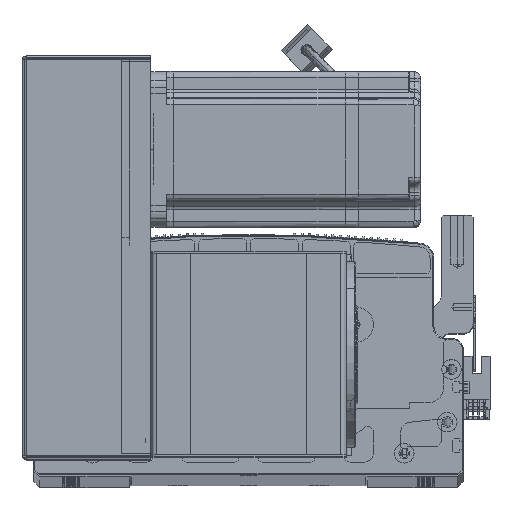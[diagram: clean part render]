
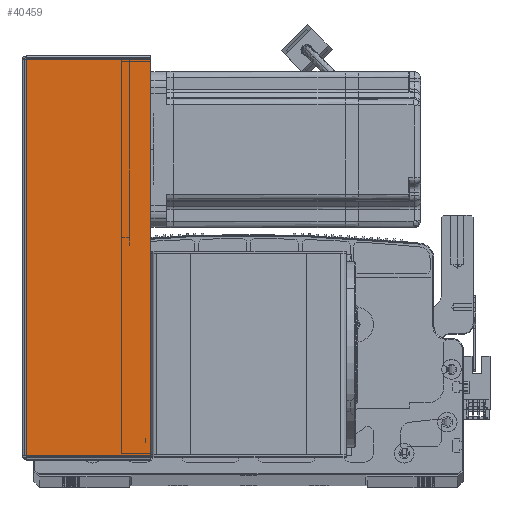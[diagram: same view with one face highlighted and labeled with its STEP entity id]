
A CAD part, top view. The second image highlights one B-rep face of the part: STEP entity #40459.
In plain terms, the highlighted planar face has unit normal (0, 0, 1) as drawn and (0, 1, 0) by its records, which use the part's own axes.
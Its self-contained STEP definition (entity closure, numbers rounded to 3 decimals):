
#1509 = EDGE_CURVE ( 'NONE', #90996, #20098, #86736, .T. ) ;
#4069 = PLANE ( 'NONE',  #18298 ) ;
#9769 = CARTESIAN_POINT ( 'NONE',  ( 0.737, 107.5, -203.293 ) ) ;
#10387 = EDGE_LOOP ( 'NONE', ( #39286, #76508, #52318, #17115 ) ) ;
#13193 = VERTEX_POINT ( 'NONE', #28824 ) ;
#13623 = CARTESIAN_POINT ( 'NONE',  ( 0.737, 107.5, 0. ) ) ;
#17115 = ORIENTED_EDGE ( 'NONE', *, *, #36371, .F. ) ;
#17184 = DIRECTION ( 'NONE',  ( 1., 0., 0. ) ) ;
#17831 = CARTESIAN_POINT ( 'NONE',  ( 64.5, 107.5, -204. ) ) ;
#18298 = AXIS2_PLACEMENT_3D ( 'NONE', #95538, #34064, #57920 ) ;
#18505 = CARTESIAN_POINT ( 'NONE',  ( 0., 107.5, -0.707 ) ) ;
#20098 = VERTEX_POINT ( 'NONE', #9769 ) ;
#28824 = CARTESIAN_POINT ( 'NONE',  ( 64.5, 107.5, -203.293 ) ) ;
#34064 = DIRECTION ( 'NONE',  ( 0., -1., 0. ) ) ;
#34342 = DIRECTION ( 'NONE',  ( 0., 0., -1. ) ) ;
#36371 = EDGE_CURVE ( 'NONE', #20098, #13193, #45058, .T. ) ;
#38581 = CARTESIAN_POINT ( 'NONE',  ( 0., 107.5, -203.293 ) ) ;
#39286 = ORIENTED_EDGE ( 'NONE', *, *, #1509, .F. ) ;
#40459 = ADVANCED_FACE ( 'NONE', ( #86378 ), #4069, .F. ) ;
#45058 = LINE ( 'NONE', #38581, #83510 ) ;
#47967 = LINE ( 'NONE', #18505, #85243 ) ;
#51959 = VERTEX_POINT ( 'NONE', #82479 ) ;
#52247 = LINE ( 'NONE', #17831, #76249 ) ;
#52318 = ORIENTED_EDGE ( 'NONE', *, *, #62935, .T. ) ;
#57920 = DIRECTION ( 'NONE',  ( 1., 0., 0. ) ) ;
#62013 = CARTESIAN_POINT ( 'NONE',  ( 0.737, 107.5, -0.707 ) ) ;
#62935 = EDGE_CURVE ( 'NONE', #51959, #13193, #52247, .T. ) ;
#66755 = DIRECTION ( 'NONE',  ( 0., 0., -1. ) ) ;
#76249 = VECTOR ( 'NONE', #34342, 1000. ) ;
#76508 = ORIENTED_EDGE ( 'NONE', *, *, #88690, .T. ) ;
#82479 = CARTESIAN_POINT ( 'NONE',  ( 64.5, 107.5, -0.707 ) ) ;
#83510 = VECTOR ( 'NONE', #92583, 1000. ) ;
#84353 = VECTOR ( 'NONE', #66755, 1000. ) ;
#85243 = VECTOR ( 'NONE', #17184, 1000. ) ;
#86378 = FACE_OUTER_BOUND ( 'NONE', #10387, .T. ) ;
#86736 = LINE ( 'NONE', #13623, #84353 ) ;
#88690 = EDGE_CURVE ( 'NONE', #90996, #51959, #47967, .T. ) ;
#90996 = VERTEX_POINT ( 'NONE', #62013 ) ;
#92583 = DIRECTION ( 'NONE',  ( 1., 0., 0. ) ) ;
#95538 = CARTESIAN_POINT ( 'NONE',  ( 0., 107.5, 0. ) ) ;
